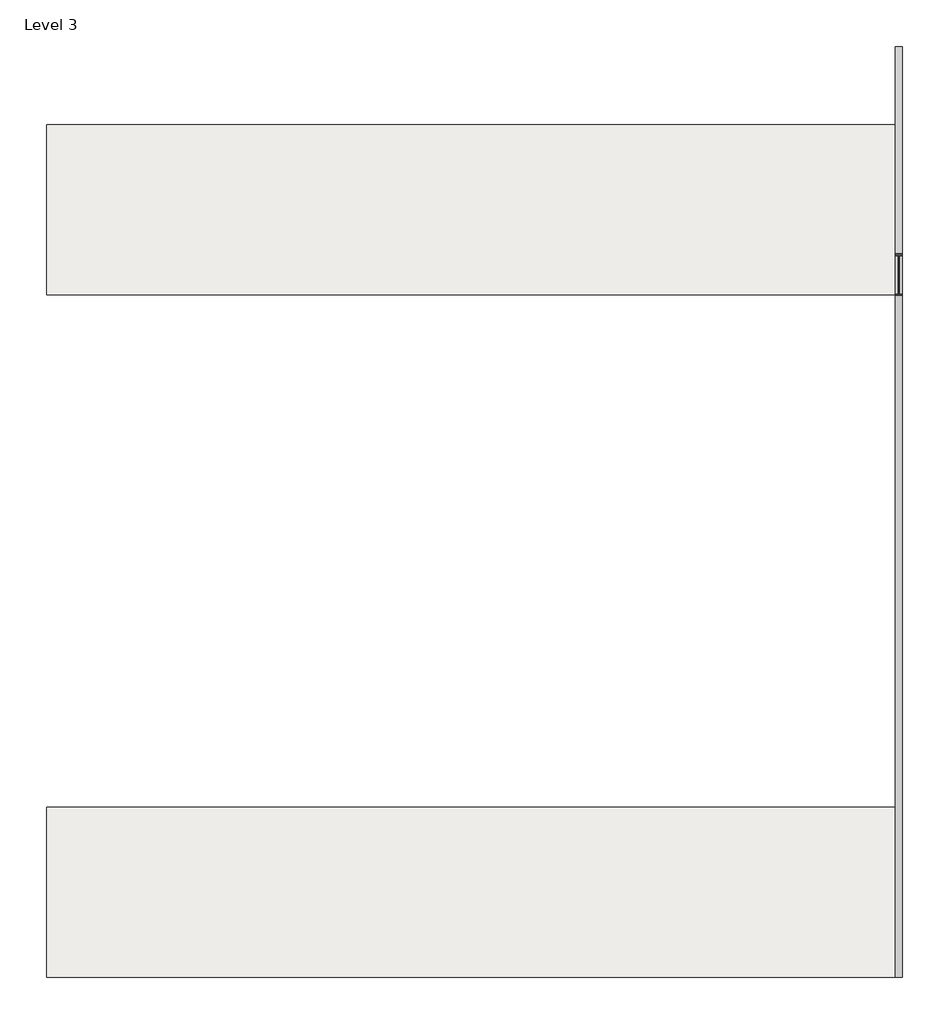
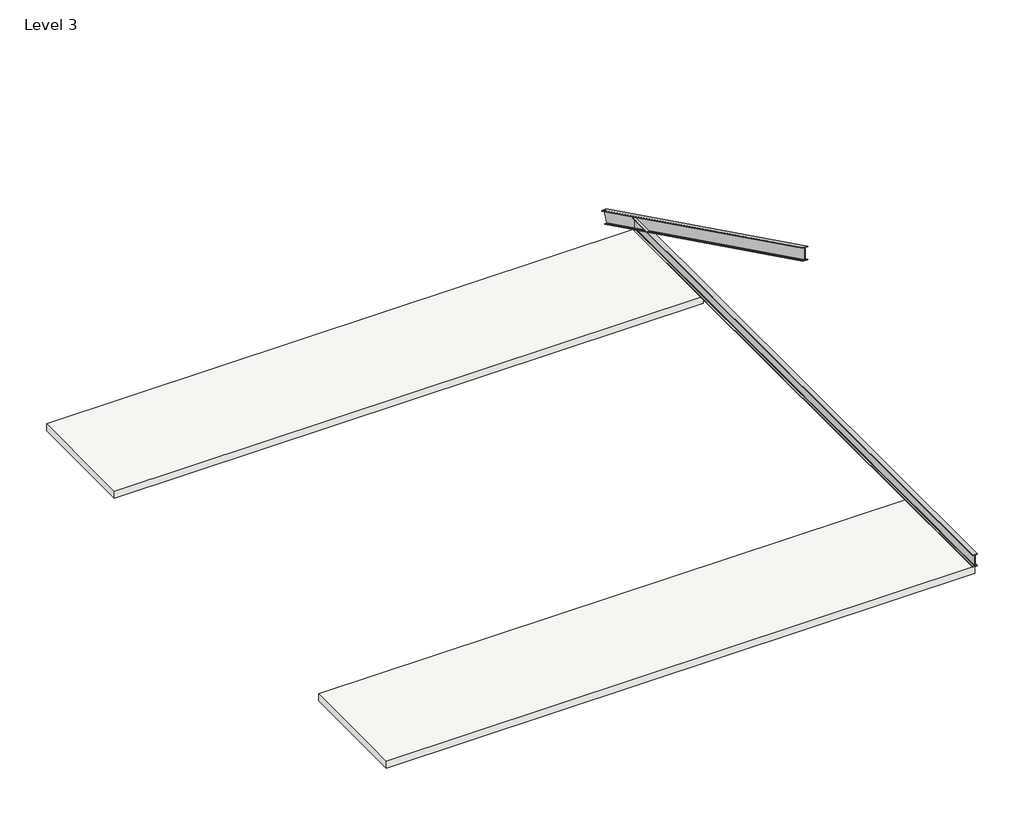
# One storey: 2 beams, 2 slabs.
"""IFC4 building model written with IfcOpenShell, lengths in millimetres."""

from ifc_helpers import new_model, si_unit, point, frame, frame_2d, origin, place, context, project, spatial, polyline, circle_curve, ellipse_curve, trimmed, segment, composite_curve, outline, extrude, element, save
from ifc_brep_helpers import plane_surface, revolved_surface, advanced_brep

model = new_model("IFC4")

# Units and contexts
model_context = context("Model", 3, world=origin())
ifc_project = project(units=[si_unit("LENGTHUNIT", "METRE", prefix="MILLI")], contexts=[model_context])

# Site, building, storey
site = spatial("IfcSite", under=ifc_project)
building = spatial("IfcBuilding", under=site)
storey = spatial("IfcBuildingStorey", under=building, Name="Level 3", Elevation=6180.0)

# Beams
placement = place(None, origin())
element("IfcBeam", 1, ObjectType="UB-Universal Beam : 254x102x28UB", at=placement, inside=storey, context=model_context, shape_type="AdvancedBrep", body=[
    advanced_brep(
    [(8021.4608738, 7474.446743, 5696.1964521), (8021.4608738, 7470.0248547, 5687.2272322), (7919.2608738, 7470.0248547, 5687.2272322), (7919.2608738, 7474.446743, 5696.1964521), (7959.6108738, 7474.446743, 5696.1964521), (7967.2108738, 7477.807378, 5703.0130591), (7967.2108738, 7577.3883012, 5904.9998898), (7959.6108738, 7580.7489362, 5911.8164968), (7919.2608738, 7580.7489362, 5911.8164968), (7919.2608738, 7585.1708245, 5920.7857167), (8021.4608738, 7585.1708245, 5920.7857167), (8021.4608738, 7580.7489362, 5911.8164968), (7981.1108738, 7580.7489362, 5911.8164968), (7973.5108738, 7577.3883012, 5904.9998898), (7973.5108738, 7477.807378, 5703.0130591), (7981.1108738, 7474.446743, 5696.1964521), (7981.1108738, 385.3937471, 9191.1492628), (8021.4608738, 385.3937471, 9191.1492628), (7973.5108738, 385.3937178, 9199.622701), (7973.5108738, 385.3928489, 9450.704053), (7981.1108738, 385.3928195, 9459.1774912), (8021.4608738, 385.3928195, 9459.1774912), (8021.4608738, 385.392781, 9470.326752), (7919.2608738, 385.392781, 9470.326752), (7919.2608738, 385.3928195, 9459.1774912), (7959.6108738, 385.3928195, 9459.1774912), (7967.2108738, 385.3928489, 9450.704053), (7967.2108738, 385.3937178, 9199.622701), (7959.6108738, 385.3937471, 9191.1492628), (7919.2608738, 385.3937471, 9191.1492628), (7919.2608738, 385.3937857, 9180.0000021), (8021.4608738, 385.3937857, 9180.0000021)],
    [
        (0, 1),
        (1, 2),
        (2, 3),
        (3, 4),
        (4, 5, circle_curve(frame((7959.6108738, 7477.807378, 5703.0130591), z_axis=(0.0, -0.8969219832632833, 0.44218882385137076), x_axis=(-1.0, 0.0, 0.0)), 7.6)),
        (5, 6),
        (6, 7, circle_curve(frame((7959.6108738, 7577.3883012, 5904.9998898), z_axis=(0.0, -0.8969219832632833, 0.44218882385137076), x_axis=(-1.0, 0.0, 0.0)), 7.6)),
        (7, 8),
        (8, 9),
        (9, 10),
        (10, 11),
        (11, 12),
        (12, 13, circle_curve(frame((7981.1108738, 7577.3883012, 5904.9998898), z_axis=(0.0, -0.8969219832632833, 0.44218882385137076), x_axis=(-1.0, 0.0, 0.0)), 7.6)),
        (13, 14),
        (14, 15, circle_curve(frame((7981.1108738, 7477.807378, 5703.0130591), z_axis=(0.0, -0.8969219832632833, 0.44218882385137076), x_axis=(-1.0, 0.0, 0.0)), 7.6)),
        (15, 0),
        (16, 17),
        (17, 0),
        (15, 16),
        (18, 16, ellipse_curve(frame((7981.1108738, 385.3937178, 9199.622701), z_axis=(0.0, -0.9999999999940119, -3.460666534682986e-06), x_axis=(0.0, 3.4606665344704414e-06, -0.9999999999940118)), 8.4734382, 7.6)),
        (14, 18),
        (19, 18),
        (13, 19),
        (20, 19, ellipse_curve(frame((7981.1108738, 385.3928489, 9450.704053), z_axis=(0.0, -0.9999999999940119, -3.460666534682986e-06), x_axis=(0.0, 3.4606665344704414e-06, -0.9999999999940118)), 8.4734382, 7.6)),
        (12, 20),
        (21, 20),
        (11, 21),
        (22, 21),
        (10, 22),
        (23, 22),
        (9, 23),
        (24, 23),
        (8, 24),
        (25, 24),
        (7, 25),
        (26, 25, ellipse_curve(frame((7959.6108738, 385.3928489, 9450.704053), z_axis=(0.0, -0.9999999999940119, -3.460666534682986e-06), x_axis=(0.0, 3.4606665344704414e-06, -0.9999999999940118)), 8.4734382, 7.6)),
        (6, 26),
        (27, 26),
        (5, 27),
        (28, 27, ellipse_curve(frame((7959.6108738, 385.3937178, 9199.622701), z_axis=(0.0, -0.9999999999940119, -3.460666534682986e-06), x_axis=(0.0, 3.4606665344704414e-06, -0.9999999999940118)), 8.4734382, 7.6)),
        (4, 28),
        (29, 28),
        (3, 29),
        (30, 29),
        (2, 30),
        (31, 30),
        (1, 31),
        (17, 31),
    ],
    [
        plane_surface(frame((7970.3608738, 7527.5978396, 5804.0064744), z_axis=(0.0, 0.8969219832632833, -0.44218882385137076), x_axis=(0.0, 0.44218882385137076, 0.8969219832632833))),
        plane_surface(frame((8021.4608738, 543.5395499, 9113.1822737), z_axis=(0.0, 0.44218882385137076, 0.8969219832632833), x_axis=(0.0, 0.8969219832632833, -0.44218882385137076))),
        revolved_surface(polyline([(7973.5108738, 7477.807378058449, 5703.013059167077), (7973.5108738, 382.03305342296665, 9201.279532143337)]), (7981.1108738, 546.900185, 9119.9988808), (0.0, 0.8969219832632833, -0.44218882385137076)),
        plane_surface(frame((7973.5108738, 546.900185, 9119.9988808), z_axis=(1.0, 0.0, 0.0), x_axis=(0.0, 0.8969219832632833, -0.44218882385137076))),
        revolved_surface(polyline([(7973.5108738, 7577.3883011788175, 5904.999889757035), (7973.5108738, 382.03218445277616, 9452.36088415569)]), (7981.1108738, 646.4811081, 9321.9857114), (0.0, 0.8969219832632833, -0.44218882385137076)),
        plane_surface(frame((7981.1108738, 649.8417432, 9328.8023185), z_axis=(0.0, -0.44218882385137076, -0.8969219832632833), x_axis=(0.0, 0.8969219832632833, -0.44218882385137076))),
        plane_surface(frame((8021.4608738, 649.8417432, 9328.8023185), z_axis=(1.0, 0.0, 0.0), x_axis=(0.0, 0.8969219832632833, -0.44218882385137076))),
        plane_surface(frame((8021.4608738, 654.2636314, 9337.7715383), z_axis=(0.0, 0.44218882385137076, 0.8969219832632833), x_axis=(0.0, 0.8969219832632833, -0.44218882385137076))),
        plane_surface(frame((7919.2608738, 654.2636314, 9337.7715383), z_axis=(-1.0, 0.0, 0.0), x_axis=(0.0, 0.8969219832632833, -0.44218882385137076))),
        plane_surface(frame((7919.2608738, 649.8417432, 9328.8023185), z_axis=(0.0, -0.44218882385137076, -0.8969219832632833), x_axis=(0.0, 0.8969219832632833, -0.44218882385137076))),
        revolved_surface(polyline([(7952.0108738, 7577.3883011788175, 5904.999889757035), (7952.0108738, 382.03218445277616, 9452.36088415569)]), (7959.6108738, 646.4811081, 9321.9857114), (0.0, 0.8969219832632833, -0.44218882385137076)),
        plane_surface(frame((7967.2108738, 646.4811081, 9321.9857114), z_axis=(-1.0, 0.0, 0.0), x_axis=(0.0, 0.8969219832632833, -0.44218882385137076))),
        revolved_surface(polyline([(7952.0108738, 7477.807378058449, 5703.013059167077), (7952.0108738, 382.03305342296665, 9201.279532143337)]), (7959.6108738, 546.900185, 9119.9988808), (0.0, 0.8969219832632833, -0.44218882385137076)),
        plane_surface(frame((7959.6108738, 543.5395499, 9113.1822737), z_axis=(0.0, 0.44218882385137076, 0.8969219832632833), x_axis=(0.0, 0.8969219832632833, -0.44218882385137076))),
        plane_surface(frame((7919.2608738, 543.5395499, 9113.1822737), z_axis=(-1.0, 0.0, 0.0), x_axis=(0.0, 0.8969219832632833, -0.44218882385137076))),
        plane_surface(frame((7919.2608738, 539.1176617, 9104.2130538), z_axis=(0.0, -0.44218882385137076, -0.8969219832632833), x_axis=(0.0, 0.8969219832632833, -0.44218882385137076))),
        plane_surface(frame((8021.4608738, 539.1176617, 9104.2130538), z_axis=(1.0, 0.0, 0.0), x_axis=(0.0, 0.8969219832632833, -0.44218882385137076))),
        plane_surface(frame((7970.3608738, 385.3937857, 9180.0000021), z_axis=(0.0, -0.9999999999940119, -3.460666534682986e-06), x_axis=(0.0, -3.460666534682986e-06, 0.9999999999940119))),
    ],
    [
        (0, [[1, 2, 3, 4, 5, 6, 7, 8, 9, 10, 11, 12, 13, 14, 15, 16]]),
        (1, [[17, 18, -16, 19]]),
        (2, [[20, -19, -15, 21]]),
        (3, [[22, -21, -14, 23]]),
        (4, [[24, -23, -13, 25]]),
        (5, [[26, -25, -12, 27]]),
        (6, [[28, -27, -11, 29]]),
        (7, [[30, -29, -10, 31]]),
        (8, [[32, -31, -9, 33]]),
        (9, [[34, -33, -8, 35]]),
        (10, [[36, -35, -7, 37]]),
        (11, [[38, -37, -6, 39]]),
        (12, [[40, -39, -5, 41]]),
        (13, [[42, -41, -4, 43]]),
        (14, [[44, -43, -3, 45]]),
        (15, [[46, -45, -2, 47]]),
        (16, [[48, -47, -1, -18]]),
        (17, [[-17, -20, -22, -24, -26, -28, -30, -32, -34, -36, -38, -40, -42, -44, -46, -48]]),
    ],
),
])
element("IfcBeam", 2, ObjectType="UB-Universal Beam : 254x102x28UB", at=placement, inside=storey, context=model_context, shape_type="SweptSolid", body=[
    extrude(outline(composite_curve([segment(polyline([(6190.0, 8021.4608738), (6190.0, 7981.1108738)]), True, "CONTINUOUS"), segment(trimmed(circle_curve(frame_2d((6197.6, 7981.1108738)), 7.6), [point((6190.0, 7981.1108738))], [point((6197.6, 7973.5108738))], True, "CARTESIAN"), True, "CONTINUOUS"), segment(polyline([(6197.6, 7973.5108738), (6422.8, 7973.5108738)]), True, "CONTINUOUS"), segment(trimmed(circle_curve(frame_2d((6422.8, 7981.1108738)), 7.6), [point((6422.8, 7973.5108738))], [point((6430.4, 7981.1108738))], True, "CARTESIAN"), True, "CONTINUOUS"), segment(polyline([(6430.4, 7981.1108738), (6430.4, 8021.4608738), (6440.4, 8021.4608738), (6440.4, 7919.2608738), (6430.4, 7919.2608738), (6430.4, 7959.6108738)]), True, "CONTINUOUS"), segment(trimmed(circle_curve(frame_2d((6422.8, 7959.6108738)), 7.6), [point((6430.4, 7959.6108738))], [point((6422.8, 7967.2108738))], True, "CARTESIAN"), True, "CONTINUOUS"), segment(polyline([(6422.8, 7967.2108738), (6197.6, 7967.2108738)]), True, "CONTINUOUS"), segment(trimmed(circle_curve(frame_2d((6197.6, 7959.6108738)), 7.6), [point((6197.6, 7967.2108738))], [point((6190.0, 7959.6108738))], True, "CARTESIAN"), True, "CONTINUOUS"), segment(polyline([(6190.0, 7959.6108738), (6190.0, 7919.2608738), (6180.0, 7919.2608738), (6180.0, 8021.4608738), (6190.0, 8021.4608738)]), True, "CONTINUOUS")], self_intersect=False)), frame((0.0, -5699.6062186, 0.0), z_axis=(0.0, 1.0, 0.0), x_axis=(0.0, 0.0, 1.0)), (0.0, 0.0, 1.0), 12170.0),
])

# Slabs
element("IfcSlab", 3, ObjectType="150mm Foundation Slab", at=placement, inside=storey, context=model_context, shape_type="SweptSolid", body=[
    extrude(outline(polyline([(7970.3608738, 6470.3937814), (7970.3608738, 4040.3937814), (-4199.6391262, 4040.3937814), (-4199.6391262, 6470.3937814), (7970.3608738, 6470.3937814)])), frame((0.0, 0.0, 6030.0), z_axis=(0.0, 0.0, 1.0), x_axis=(1.0, 0.0, 0.0)), (0.0, 0.0, 1.0), 150.0),
])
element("IfcSlab", 4, ObjectType="150mm Foundation Slab", at=placement, inside=storey, context=model_context, shape_type="SweptSolid", body=[
    extrude(outline(polyline([(7970.3608738, -3269.6062186), (7970.3608738, -5699.6062186), (-4199.6391262, -5699.6062186), (-4199.6391262, -3269.6062186), (7970.3608738, -3269.6062186)])), frame((0.0, 0.0, 6030.0), z_axis=(0.0, 0.0, 1.0), x_axis=(1.0, 0.0, 0.0)), (0.0, 0.0, 1.0), 150.0),
])

save(model, "model.ifc")
